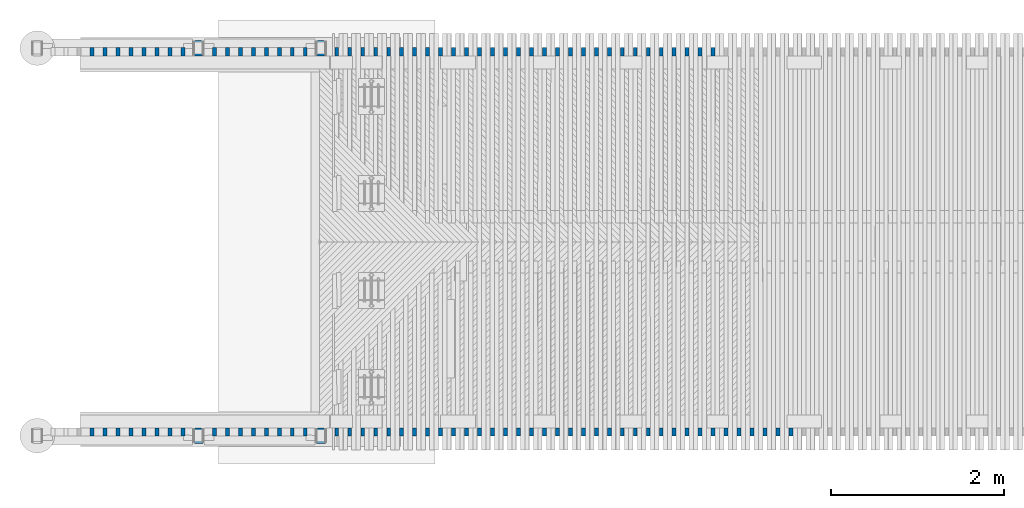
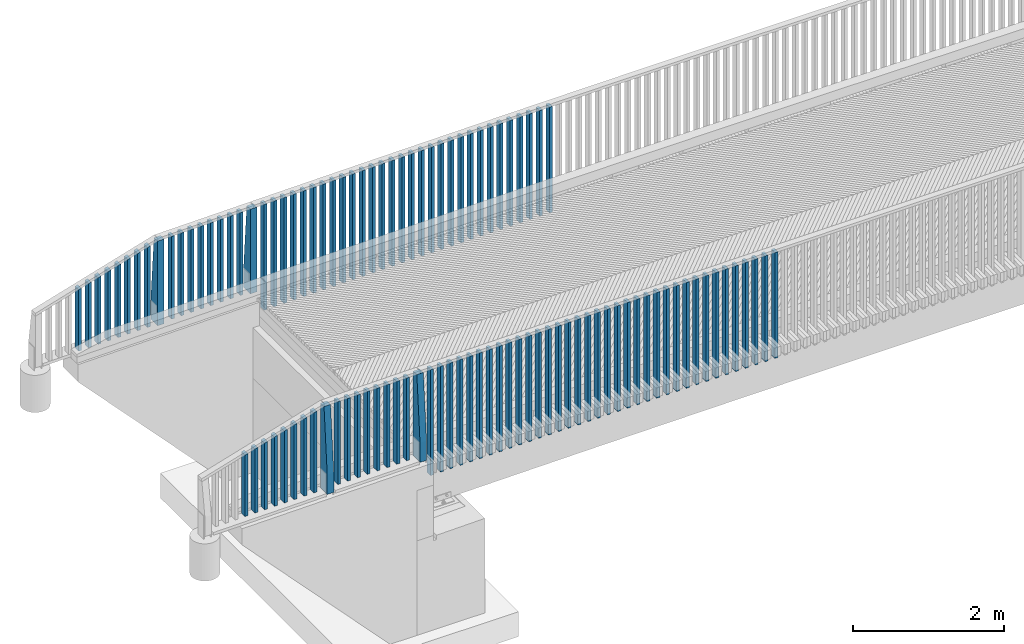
# One storey, part 6 of 47: 102 columns.
"""IFC2X3 building model written with IfcOpenShell, lengths in millimetres."""

import ifcopenshell
import ifcopenshell.guid

model = None  # the IFC model being written
_history = None  # IfcOwnerHistory: only IFC2X3 demands one
_inside = {}  # id of a spatial element -> (the spatial element, [elements in it])
_under = {}  # id of a project, library or spatial element -> (it, [spatial elements below it])
_declared = {}  # id of a project -> (the project, [libraries it declares])
_typed = {}  # id of a type object -> (the type object, [elements of that type])
_made_of = {}  # id of a material, layer set ... -> (it, [elements and type objects made of it])


def new_model(schema):
    """Start an empty IFC model of exactly this schema.

    Asked for "IFC4X3", IfcOpenShell would pick the latest addendum, in which some entities
    have other attributes; the version numbers below select the first issue.
    IFC2X3 requires an IfcOwnerHistory on every rooted entity: one is made here for all.
    """
    global model, _history
    if schema == "IFC4X3":
        model = ifcopenshell.file(schema_version=(4, 3, 0, 0))
    else:
        model = ifcopenshell.file(schema=schema)
    _inside.clear()
    _under.clear()
    _declared.clear()
    _typed.clear()
    _made_of.clear()
    _history = None
    if model.schema == "IFC2X3":
        org = make("IfcOrganization", Name="unknown")
        user = make(
            "IfcPersonAndOrganization",
            ThePerson=make("IfcPerson", FamilyName="unknown"),
            TheOrganization=org,
        )
        app = make(
            "IfcApplication",
            ApplicationDeveloper=org,
            Version="unknown",
            ApplicationFullName="unknown",
            ApplicationIdentifier="unknown",
        )
        _history = make(
            "IfcOwnerHistory",
            OwningUser=user,
            OwningApplication=app,
            ChangeAction="ADDED",
            CreationDate=0,
        )
    return model


def make(cls, **values):
    """One entity of the class cls with the attributes given. An attribute that is None is left unset."""
    return model.create_entity(
        cls, **{name: value for name, value in values.items() if value is not None}
    )


def rooted(cls, **values):
    """An entity with a GlobalId (a new one), such as an element, a storey or a relation."""
    return make(cls, GlobalId=ifcopenshell.guid.new(), OwnerHistory=_history, **values)


def si_unit(unit_type, name, prefix=None):
    """IfcSIUnit, for example si_unit("LENGTHUNIT", "METRE", prefix="MILLI")."""
    return make("IfcSIUnit", UnitType=unit_type, Prefix=prefix, Name=name)


def assignment(units):
    """IfcUnitAssignment: the units of a project."""
    return None if units is None else make("IfcUnitAssignment", Units=units)


def point(xyz):
    """IfcCartesianPoint."""
    return None if xyz is None else make("IfcCartesianPoint", Coordinates=xyz)


def direction(xyz):
    """IfcDirection."""
    return None if xyz is None else make("IfcDirection", DirectionRatios=xyz)


def frame(location, z_axis=None, x_axis=None):
    """IfcAxis2Placement3D, a coordinate frame: its origin and axes. An axis left out is left unset."""
    return make(
        "IfcAxis2Placement3D",
        Location=point(location),
        Axis=direction(z_axis),
        RefDirection=direction(x_axis),
    )


def origin_with_axes():
    """The frame at (0, 0, 0) with the z axis (0, 0, 1) and the x axis (1, 0, 0) written out."""
    return frame((0.0, 0.0, 0.0), z_axis=(0.0, 0.0, 1.0), x_axis=(1.0, 0.0, 0.0))


def place(relative_to, where):
    """IfcLocalPlacement: puts the frame where relative to a parent placement (None: the world)."""
    return make(
        "IfcLocalPlacement", PlacementRelTo=relative_to, RelativePlacement=where
    )


def context(
    kind, dimensions, precision=None, world=None, true_north=None, identifier=None
):
    """IfcGeometricRepresentationContext, for example the 3D "Model" context."""
    return make(
        "IfcGeometricRepresentationContext",
        ContextIdentifier=identifier,
        ContextType=kind,
        CoordinateSpaceDimension=dimensions,
        Precision=precision,
        WorldCoordinateSystem=world,
        TrueNorth=true_north,
    )


def subcontext(parent, identifier, kind, view, scale=None):
    """IfcGeometricRepresentationSubContext, for example "Body" below "Model"."""
    return make(
        "IfcGeometricRepresentationSubContext",
        ContextIdentifier=identifier,
        ContextType=kind,
        ParentContext=parent,
        TargetScale=scale,
        TargetView=view,
    )


def project(units=None, contexts=None):
    """IfcProject with its units and contexts."""
    return rooted(
        "IfcProject",
        Name="project",
        RepresentationContexts=contexts,
        UnitsInContext=assignment(units),
    )


def spatial(cls, under=None, at=None, **own):
    """A site, building, storey or space (cls), placed at a placement, below another one or the project."""
    s = rooted(cls, ObjectPlacement=at, **own)
    if under is not None:
        _under.setdefault(under.id(), (under, []))[1].append(s)
    return s


def faces_of(points, faces, orient=None, outer=None):
    """IfcFace entities. A face is a list of loops; a loop is a list of indices into points, from 0.

    orient and outer hold one flag for each loop. By default every Orientation is true, the
    first loop of a face is its IfcFaceOuterBound and the others are IfcFaceBound.
    """
    made = []
    for i, loops in enumerate(faces):
        bounds = []
        for j, loop in enumerate(loops):
            is_outer = j == 0 if outer is None else outer[i][j]
            bounds.append(
                make(
                    "IfcFaceOuterBound" if is_outer else "IfcFaceBound",
                    Bound=make("IfcPolyLoop", Polygon=[points[k] for k in loop]),
                    Orientation=True if orient is None else orient[i][j],
                )
            )
        made.append(make("IfcFace", Bounds=bounds))
    return made


def faceted_brep(points, faces, orient=None, outer=None, voids=None):
    """IfcFacetedBrep: a solid bounded by flat faces; with voids (closed shells), ...WithVoids."""
    shared = [point(p) for p in points]
    hull = make("IfcClosedShell", CfsFaces=faces_of(shared, faces, orient, outer))
    if voids is None:
        return make("IfcFacetedBrep", Outer=hull)
    return make(
        "IfcFacetedBrepWithVoids",
        Outer=hull,
        Voids=[
            make(cls, CfsFaces=faces_of(shared, fs, o, b)) for cls, fs, o, b in voids
        ],
    )


def shape(context_of_items, identifier, shape_type, items):
    """IfcShapeRepresentation: the items that make up one representation, for example the "Body"."""
    return make(
        "IfcShapeRepresentation",
        ContextOfItems=context_of_items,
        RepresentationIdentifier=identifier,
        RepresentationType=shape_type,
        Items=items,
    )


def material(Name=None, Category=None):
    """IfcMaterial."""
    return make("IfcMaterial", Name=Name, Category=Category)


def made_of(thing, what):
    """Note that an element or type object is made of a material, layer set ...; save() writes the relation."""
    if what is not None:
        _made_of.setdefault(what.id(), (what, []))[1].append(thing)
    return thing


def type_object(cls, material=None, **own):
    """A type object (cls), such as IfcWallType, which elements share."""
    return made_of(rooted(cls, **own), material)


def element(
    cls,
    number,
    at=None,
    inside=None,
    cuts=None,
    type_object=None,
    material=None,
    context=None,
    identifier="Body",
    shape_type=None,
    held_by="IfcProductDefinitionShape",
    body=None,
    shapes=None,
    **own,
):
    """One element of the class cls, such as IfcWall. Its Tag is "e" and its number.

    at: its placement. inside: the storey or other place that contains it. cuts: it is an
    opening in that element (IfcRelVoidsElement). A single representation is given by context,
    identifier, shape_type and body (its items); several are given by shapes. held_by: the class
    of the entity that holds the representations. save() writes the other relations.
    """
    e = rooted(cls, Tag="e%d" % number, ObjectPlacement=at, **own)
    if body is not None:
        shapes = [shape(context, identifier, shape_type, body)]
    if shapes is not None:
        e.Representation = make(held_by, Representations=shapes)
    if inside is not None:
        _inside.setdefault(inside.id(), (inside, []))[1].append(e)
    if cuts is not None:
        rooted(
            "IfcRelVoidsElement", RelatingBuildingElement=cuts, RelatedOpeningElement=e
        )
    if type_object is not None:
        _typed.setdefault(type_object.id(), (type_object, []))[1].append(e)
    return made_of(e, material)


def aggregate(whole, parts):
    """IfcRelAggregates: a whole, such as a stair, and the parts it consists of."""
    return rooted("IfcRelAggregates", RelatingObject=whole, RelatedObjects=parts)


def save(model, path):
    """Write the relations noted so far, then the file.

    IfcRelAggregates (storeys below a building ...), IfcRelContainedInSpatialStructure (elements
    in a storey), IfcRelDefinesByType, IfcRelAssociatesMaterial and IfcRelDeclares: one each for
    every whole, place, type object, material and project.
    """
    for whole, parts in _under.values():
        aggregate(whole, parts)
    for where, things in _inside.values():
        rooted(
            "IfcRelContainedInSpatialStructure",
            RelatedElements=things,
            RelatingStructure=where,
        )
    for kind, things in _typed.values():
        rooted("IfcRelDefinesByType", RelatedObjects=things, RelatingType=kind)
    for what, things in _made_of.values():
        rooted("IfcRelAssociatesMaterial", RelatedObjects=things, RelatingMaterial=what)
    for by, libraries in _declared.values():
        rooted("IfcRelDeclares", RelatingContext=by, RelatedDefinitions=libraries)
    model.write(path)


model = new_model("IFC2X3")

# Units and contexts
model_context = context("Model", 3, precision=1e-05, world=origin_with_axes())
body_context = subcontext(model_context, "Body", "Model", "MODEL_VIEW")
ifc_project = project(units=[si_unit("LENGTHUNIT", "METRE", prefix="MILLI"), si_unit("AREAUNIT", "SQUARE_METRE"), si_unit("VOLUMEUNIT", "CUBIC_METRE"), si_unit("MASSUNIT", "GRAM", prefix="KILO"), si_unit("TIMEUNIT", "SECOND"), si_unit("PLANEANGLEUNIT", "RADIAN"), si_unit("SOLIDANGLEUNIT", "STERADIAN"), si_unit("THERMODYNAMICTEMPERATUREUNIT", "DEGREE_CELSIUS"), si_unit("LUMINOUSINTENSITYUNIT", "LUMEN")], contexts=[model_context])

# Site, building, storey
site_placement = place(None, origin_with_axes())
site = spatial("IfcSite", under=ifc_project, at=site_placement, Name="Undefined", CompositionType="ELEMENT")
building_placement = place(site_placement, origin_with_axes())
building = spatial("IfcBuilding", under=site, at=building_placement, Name="Undefined", CompositionType="ELEMENT")
storey_placement = place(building_placement, origin_with_axes())
storey = spatial("IfcBuildingStorey", under=building, at=storey_placement, Name="Undefined", CompositionType="ELEMENT", Elevation=0.0)

# Columns
ifc_material = material(Name="TIMBER/Timber_Undefined")
column_type_1 = type_object("IfcColumnType", Name="180*100", PredefinedType="NOTDEFINED")
column_1_placement = place(storey_placement, frame((-1996.99999924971, 64604.9879081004, 3729.56999999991), z_axis=(0.0, -1.0, 0.0), x_axis=(0.0, 0.0, 1.0)))
element("IfcColumn", 1, at=column_1_placement, inside=storey, type_object=column_type_1, material=ifc_material, Name="KAIDEPYLVÄS", ObjectType="180*100", context=body_context, shape_type="Brep", body=[
    faceted_brep([(-606.989999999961, 50.0, 90.0), (-606.989999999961, -50.0, 90.0), (758.516492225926, -50.0, 90.0), (756.859403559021, 50.0, 90.0), (-606.989999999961, -50.0, -90.0), (-606.989999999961, 50.0, -90.0), (-287.990000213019, -50.0, -90.0), (758.516492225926, -50.0, -5.54845689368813), (756.859403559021, 50.0, -5.6821815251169), (-287.990000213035, 50.0, -90.0)], [[[0, 1, 2, 3]], [[4, 1, 0, 5]], [[2, 1, 4, 6, 7]], [[3, 2, 7, 8]], [[5, 0, 3, 8, 9]], [[4, 5, 9, 6]], [[6, 9, 8, 7]]]),
])
column_2_placement = place(storey_placement, frame((-1996.99999924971, 60125.0120919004, 3729.56999999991), z_axis=(0.0, 1.0, 0.0), x_axis=(0.0, 0.0, 1.0)))
element("IfcColumn", 2, at=column_2_placement, inside=storey, type_object=column_type_1, material=ifc_material, Name="KAIDEPYLVÄS", ObjectType="180*100", context=body_context, shape_type="Brep", body=[
    faceted_brep([(-606.989999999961, -50.0, -90.0), (-606.989999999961, -50.0, 90.0), (-606.989999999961, 50.0, 90.0), (-606.989999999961, 50.0, -90.0), (756.859403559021, -50.0, 90.0), (758.516492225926, 50.0, 90.0), (758.516492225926, 50.0, -5.54845689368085), (-287.990000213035, 50.0, -90.0), (-287.990000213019, -50.0, -90.0), (756.859403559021, -50.0, -5.68218152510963)], [[[0, 1, 2, 3]], [[2, 1, 4, 5]], [[3, 2, 5, 6, 7]], [[0, 3, 7, 8]], [[4, 1, 0, 8, 9]], [[5, 4, 9, 6]], [[6, 9, 8, 7]]]),
])
column_3_placement = place(storey_placement, frame((-581.999999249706, 64604.9879081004, 3749.43999999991), z_axis=(0.0, -1.0, 0.0), x_axis=(0.0, 0.0, 1.0)))
element("IfcColumn", 3, at=column_3_placement, inside=storey, type_object=column_type_1, material=ifc_material, Name="KAIDEPYLVÄS", ObjectType="180*100", context=body_context, shape_type="Brep", body=[
    faceted_brep([(-606.989999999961, 50.0, 90.0), (-606.989999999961, -50.0, 90.0), (758.516492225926, -50.0, 90.0), (756.859403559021, 50.0, 90.0), (-606.989999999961, -50.0, -90.0), (-606.989999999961, 50.0, -90.0), (-287.990000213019, -50.0, -90.0), (758.516492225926, -50.0, -5.54845689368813), (756.859403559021, 50.0, -5.6821815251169), (-287.990000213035, 50.0, -90.0)], [[[0, 1, 2, 3]], [[4, 1, 0, 5]], [[2, 1, 4, 6, 7]], [[3, 2, 7, 8]], [[5, 0, 3, 8, 9]], [[4, 5, 9, 6]], [[6, 9, 8, 7]]]),
])
column_4_placement = place(storey_placement, frame((-581.999999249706, 60125.0120919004, 3749.43999999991), z_axis=(0.0, 1.0, 0.0), x_axis=(0.0, 0.0, 1.0)))
element("IfcColumn", 4, at=column_4_placement, inside=storey, type_object=column_type_1, material=ifc_material, Name="KAIDEPYLVÄS", ObjectType="180*100", context=body_context, shape_type="Brep", body=[
    faceted_brep([(-606.989999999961, -50.0, -90.0), (-606.989999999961, -50.0, 90.0), (-606.989999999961, 50.0, 90.0), (-606.989999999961, 50.0, -90.0), (756.859403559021, -50.0, 90.0), (758.516492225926, 50.0, 90.0), (758.516492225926, 50.0, -5.54845689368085), (-287.990000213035, 50.0, -90.0), (-287.990000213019, -50.0, -90.0), (756.859403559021, -50.0, -5.68218152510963)], [[[0, 1, 2, 3]], [[2, 1, 4, 5]], [[3, 2, 5, 6, 7]], [[0, 3, 7, 8]], [[4, 1, 0, 8, 9]], [[5, 4, 9, 6]], [[6, 9, 8, 7]]]),
])
column_type_2 = type_object("IfcColumnType", Name="95*45", PredefinedType="NOTDEFINED")
for number, where, z_axis, x_axis in (
    (5, (-399.999932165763, 64562.4879081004, 2804.85408106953), (0.0, -1.0, 0.0), (0.0, 0.0, 1.0)),
    (6, (-249.999932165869, 64562.4879081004, 2806.92364687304), (0.0, -1.0, 0.0), (0.0, 0.0, 1.0)),
    (7, (-99.999932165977, 64562.4879081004, 2808.95591629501), (0.0, -1.0, 0.0), (0.0, 0.0, 1.0)),
    (8, (50.0000678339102, 64562.4879081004, 2810.95088971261), (0.0, -1.0, 0.0), (0.0, 0.0, 1.0)),
    (9, (200.000067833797, 64562.4879081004, 2812.90856749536), (0.0, -1.0, 0.0), (0.0, 0.0, 1.0)),
    (10, (350.000067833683, 64562.4879081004, 2814.82895000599), (0.0, -1.0, 0.0), (0.0, 0.0, 1.0)),
    (11, (500.000067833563, 64562.4879081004, 2816.71203760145), (0.0, -1.0, 0.0), (0.0, 0.0, 1.0)),
    (12, (650.000067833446, 64562.4879081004, 2818.55783063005), (0.0, -1.0, 0.0), (0.0, 0.0, 1.0)),
    (13, (800.000067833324, 64562.4879081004, 2820.36632943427), (0.0, -1.0, 0.0), (0.0, 0.0, 1.0)),
    (14, (950.000067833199, 64562.4879081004, 2822.13753434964), (0.0, -1.0, 0.0), (0.0, 0.0, 1.0)),
    (15, (1100.00006783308, 64562.4879081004, 2823.87144570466), (0.0, -1.0, 0.0), (0.0, 0.0, 1.0)),
    (16, (1250.00006783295, 64562.4879081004, 2825.56806382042), (0.0, -1.0, 0.0), (0.0, 0.0, 1.0)),
    (17, (1400.00006783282, 64562.4879081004, 2827.22738901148), (0.0, -1.0, 0.0), (0.0, 0.0, 1.0)),
    (18, (1550.00006783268, 64562.4879081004, 2828.84942158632), (0.0, -1.0, 0.0), (0.0, 0.0, 1.0)),
    (19, (1700.00006783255, 64562.4879081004, 2830.43416184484), (0.0, -1.0, 0.0), (0.0, 0.0, 1.0)),
    (20, (1850.00006783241, 64562.4879081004, 2831.9816100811), (0.0, -1.0, 0.0), (0.0, 0.0, 1.0)),
    (21, (2000.00006783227, 64562.4879081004, 2833.49176658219), (0.0, -1.0, 0.0), (0.0, 0.0, 1.0)),
    (22, (2150.00006783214, 64562.4879081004, 2834.96463162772), (0.0, -1.0, 0.0), (0.0, 0.0, 1.0)),
    (23, (2300.00006783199, 64562.4879081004, 2836.40020549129), (0.0, -1.0, 0.0), (0.0, 0.0, 1.0)),
    (24, (2450.00006783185, 64562.4879081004, 2837.79848843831), (0.0, -1.0, 0.0), (0.0, 0.0, 1.0)),
    (25, (2600.0000678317, 64562.4879081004, 2839.15948072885), (0.0, -1.0, 0.0), (0.0, 0.0, 1.0)),
    (26, (2750.00006783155, 64562.4879081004, 2840.48318261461), (0.0, -1.0, 0.0), (0.0, 0.0, 1.0)),
    (27, (2900.0000678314, 64562.4879081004, 2841.76959434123), (0.0, -1.0, 0.0), (0.0, 0.0, 1.0)),
    (28, (3050.00006783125, 64562.4879081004, 2843.01871614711), (0.0, -1.0, 0.0), (0.0, 0.0, 1.0)),
    (29, (3200.00006783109, 64562.4879081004, 2844.23054826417), (0.0, -1.0, 0.0), (0.0, 0.0, 1.0)),
    (30, (3350.00006783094, 64562.4879081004, 2845.40509091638), (0.0, -1.0, 0.0), (0.0, 0.0, 1.0)),
    (31, (3500.00006783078, 64562.4879081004, 2846.54234432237), (0.0, -1.0, 0.0), (0.0, 0.0, 1.0)),
    (32, (3650.00006783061, 64562.4879081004, 2847.64230869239), (0.0, -1.0, 0.0), (0.0, 0.0, 1.0)),
    (33, (3800.00006783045, 64562.4879081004, 2848.7049842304), (0.0, -1.0, 0.0), (0.0, 0.0, 1.0)),
    (34, (3950.00006783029, 64562.4879081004, 2849.73037113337), (0.0, -1.0, 0.0), (0.0, 0.0, 1.0)),
):
    element("IfcColumn", number, at=place(storey_placement, frame(where, z_axis=z_axis, x_axis=x_axis)), inside=storey, type_object=column_type_2, material=ifc_material, Name="KAIDEPYLVÄS", ObjectType="95*45", context=body_context, shape_type="Brep", body=[
        faceted_brep([(4.00216176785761e-05, 22.5000000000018, -47.5), (4.00216176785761e-05, 22.5000000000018, 47.5), (1705.0, 22.5, 47.5), (1705.0, 22.5, -47.5), (4.00216176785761e-05, -22.5000000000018, 47.5), (1705.0, -22.5, 47.5), (4.00216176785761e-05, -22.5000000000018, -47.5), (1705.0, -22.5, -47.5)], [[[0, 1, 2, 3]], [[1, 4, 5, 2]], [[4, 6, 7, 5]], [[6, 0, 3, 7]], [[5, 7, 3, 2]], [[6, 4, 1, 0]]]),
    ])
column_5_placement = place(storey_placement, frame((-2179.52918364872, 64562.4979081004, 3121.94), z_axis=(0.0, 1.0, 0.0), x_axis=(0.0, 0.0, 1.0)))
element("IfcColumn", 35, at=column_5_placement, inside=storey, type_object=column_type_2, material=ifc_material, Name="BEAM", ObjectType="95*45", context=body_context, shape_type="Brep", body=[
    faceted_brep([(28.8093027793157, 22.5, -47.5), (28.8093027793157, 22.5, 47.5), (1329.96289203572, 22.5, 47.5), (1329.96289203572, 22.5, -47.5), (28.1773870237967, -22.5, 47.5), (1316.53527806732, -22.5, 47.5), (28.1773870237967, -22.5, -47.5), (1316.53527806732, -22.5, -47.5)], [[[0, 1, 2, 3]], [[1, 4, 5, 2]], [[4, 6, 7, 5]], [[6, 0, 3, 7]], [[5, 7, 3, 2]], [[6, 4, 1, 0]]]),
])
column_6_placement = place(storey_placement, frame((-2329.52918364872, 64562.4979081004, 3121.94), z_axis=(0.0, 1.0, 0.0), x_axis=(0.0, 0.0, 1.0)))
element("IfcColumn", 36, at=column_6_placement, inside=storey, type_object=column_type_2, material=ifc_material, Name="BEAM", ObjectType="95*45", context=body_context, shape_type="Brep", body=[
    faceted_brep([(26.7029169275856, 22.5, -47.5), (26.7029169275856, 22.5, 47.5), (1285.20417880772, 22.5, 47.5), (1285.20417880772, 22.5, -47.5), (26.0710011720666, -22.5, 47.5), (1271.77656483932, -22.5, 47.5), (26.0710011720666, -22.5, -47.5), (1271.77656483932, -22.5, -47.5)], [[[0, 1, 2, 3]], [[1, 4, 5, 2]], [[4, 6, 7, 5]], [[6, 0, 3, 7]], [[5, 7, 3, 2]], [[6, 4, 1, 0]]]),
])
column_7_placement = place(storey_placement, frame((-2479.52918364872, 64562.4979081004, 3121.94), z_axis=(0.0, 1.0, 0.0), x_axis=(0.0, 0.0, 1.0)))
element("IfcColumn", 37, at=column_7_placement, inside=storey, type_object=column_type_2, material=ifc_material, Name="BEAM", ObjectType="95*45", context=body_context, shape_type="Brep", body=[
    faceted_brep([(24.5965310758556, 22.5, -47.5), (24.5965310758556, 22.5, 47.5), (1240.44546557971, 22.5, 47.5), (1240.44546557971, 22.5, -47.5), (23.9646153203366, -22.5, 47.5), (1227.01785161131, -22.5, 47.5), (23.9646153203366, -22.5, -47.5), (1227.01785161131, -22.5, -47.5)], [[[0, 1, 2, 3]], [[1, 4, 5, 2]], [[4, 6, 7, 5]], [[6, 0, 3, 7]], [[5, 7, 3, 2]], [[6, 4, 1, 0]]]),
])
column_8_placement = place(storey_placement, frame((-2629.52918364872, 64562.4979081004, 3121.94), z_axis=(0.0, 1.0, 0.0), x_axis=(0.0, 0.0, 1.0)))
element("IfcColumn", 38, at=column_8_placement, inside=storey, type_object=column_type_2, material=ifc_material, Name="BEAM", ObjectType="95*45", context=body_context, shape_type="Brep", body=[
    faceted_brep([(22.4901452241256, 22.5, -47.5), (22.4901452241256, 22.5, 47.5), (1195.68675235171, 22.5, 47.5), (1195.68675235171, 22.5, -47.5), (21.8582294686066, -22.5, 47.5), (1182.2591383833, -22.5, 47.5), (21.8582294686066, -22.5, -47.5), (1182.2591383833, -22.5, -47.5)], [[[0, 1, 2, 3]], [[1, 4, 5, 2]], [[4, 6, 7, 5]], [[6, 0, 3, 7]], [[5, 7, 3, 2]], [[6, 4, 1, 0]]]),
])
column_9_placement = place(storey_placement, frame((-2779.52918364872, 64562.4979081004, 3121.94), z_axis=(0.0, 1.0, 0.0), x_axis=(0.0, 0.0, 1.0)))
element("IfcColumn", 39, at=column_9_placement, inside=storey, type_object=column_type_2, material=ifc_material, Name="BEAM", ObjectType="95*45", context=body_context, shape_type="Brep", body=[
    faceted_brep([(20.3837593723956, 22.5, -47.5), (20.3837593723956, 22.5, 47.5), (1150.9280391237, 22.5, 47.5), (1150.9280391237, 22.5, -47.5), (19.7518436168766, -22.5, 47.5), (1137.5004251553, -22.5, 47.5), (19.7518436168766, -22.5, -47.5), (1137.5004251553, -22.5, -47.5)], [[[0, 1, 2, 3]], [[1, 4, 5, 2]], [[4, 6, 7, 5]], [[6, 0, 3, 7]], [[5, 7, 3, 2]], [[6, 4, 1, 0]]]),
])
column_10_placement = place(storey_placement, frame((-2929.52918364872, 64562.4979081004, 3121.94), z_axis=(0.0, 1.0, 0.0), x_axis=(0.0, 0.0, 1.0)))
element("IfcColumn", 40, at=column_10_placement, inside=storey, type_object=column_type_2, material=ifc_material, Name="BEAM", ObjectType="95*45", context=body_context, shape_type="Brep", body=[
    faceted_brep([(18.2773735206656, 22.5, -47.5), (18.2773735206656, 22.5, 47.5), (1106.16932589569, 22.5, 47.5), (1106.16932589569, 22.5, -47.5), (17.6454577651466, -22.5, 47.5), (1092.74171192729, -22.5, 47.5), (17.6454577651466, -22.5, -47.5), (1092.74171192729, -22.5, -47.5)], [[[0, 1, 2, 3]], [[1, 4, 5, 2]], [[4, 6, 7, 5]], [[6, 0, 3, 7]], [[5, 7, 3, 2]], [[6, 4, 1, 0]]]),
])
column_11_placement = place(storey_placement, frame((-3079.52918364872, 64562.4979081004, 3121.94), z_axis=(0.0, 1.0, 0.0), x_axis=(0.0, 0.0, 1.0)))
element("IfcColumn", 41, at=column_11_placement, inside=storey, type_object=column_type_2, material=ifc_material, Name="BEAM", ObjectType="95*45", context=body_context, shape_type="Brep", body=[
    faceted_brep([(16.1709876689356, 22.5, -47.5), (16.1709876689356, 22.5, 47.5), (1061.41061266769, 22.5, 47.5), (1061.41061266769, 22.5, -47.5), (15.5390719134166, -22.5, 47.5), (1047.98299869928, -22.5, 47.5), (15.5390719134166, -22.5, -47.5), (1047.98299869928, -22.5, -47.5)], [[[0, 1, 2, 3]], [[1, 4, 5, 2]], [[4, 6, 7, 5]], [[6, 0, 3, 7]], [[5, 7, 3, 2]], [[6, 4, 1, 0]]]),
])
column_12_placement = place(storey_placement, frame((-3229.52918364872, 64562.4979081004, 3121.94), z_axis=(0.0, 1.0, 0.0), x_axis=(0.0, 0.0, 1.0)))
element("IfcColumn", 42, at=column_12_placement, inside=storey, type_object=column_type_2, material=ifc_material, Name="BEAM", ObjectType="95*45", context=body_context, shape_type="Brep", body=[
    faceted_brep([(14.0646018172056, 22.5, -47.5), (14.0646018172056, 22.5, 47.5), (1016.65189943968, 22.5, 47.5), (1016.65189943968, 22.5, -47.5), (13.4326860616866, -22.5, 47.5), (1003.22428547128, -22.5, 47.5), (13.4326860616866, -22.5, -47.5), (1003.22428547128, -22.5, -47.5)], [[[0, 1, 2, 3]], [[1, 4, 5, 2]], [[4, 6, 7, 5]], [[6, 0, 3, 7]], [[5, 7, 3, 2]], [[6, 4, 1, 0]]]),
])
column_13_placement = place(storey_placement, frame((-1814.49999924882, 64562.4979081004, 3119.90000000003), z_axis=(0.0, 1.0, 0.0), x_axis=(0.0, 0.0, 1.0)))
element("IfcColumn", 43, at=column_13_placement, inside=storey, type_object=column_type_2, material=ifc_material, Name="BEAM", ObjectType="95*45", context=body_context, shape_type="Brep", body=[
    faceted_brep([(35.9832863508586, 22.5, -47.5), (35.9832863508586, 22.5, 47.5), (1370.35731729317, 22.5, 47.5), (1370.35731729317, 22.5, -47.5), (35.3513416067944, -22.5, 47.5), (1369.72610027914, -22.5, 47.5), (35.3513416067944, -22.5, -47.5), (1369.72610027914, -22.5, -47.5)], [[[0, 1, 2, 3]], [[1, 4, 5, 2]], [[4, 6, 7, 5]], [[6, 0, 3, 7]], [[5, 7, 3, 2]], [[6, 4, 1, 0]]]),
])
column_14_placement = place(storey_placement, frame((-1664.49999924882, 64562.4979081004, 3119.90000000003), z_axis=(0.0, 1.0, 0.0), x_axis=(0.0, 0.0, 1.0)))
element("IfcColumn", 44, at=column_14_placement, inside=storey, type_object=column_type_2, material=ifc_material, Name="BEAM", ObjectType="95*45", context=body_context, shape_type="Brep", body=[
    faceted_brep([(38.0897688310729, 22.5, -47.5), (38.0897688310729, 22.5, 47.5), (1372.4613740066, 22.5, 47.5), (1372.4613740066, 22.5, -47.5), (37.4578240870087, -22.5, 47.5), (1371.83015699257, -22.5, 47.5), (37.4578240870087, -22.5, -47.5), (1371.83015699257, -22.5, -47.5)], [[[0, 1, 2, 3]], [[1, 4, 5, 2]], [[4, 6, 7, 5]], [[6, 0, 3, 7]], [[5, 7, 3, 2]], [[6, 4, 1, 0]]]),
])
column_15_placement = place(storey_placement, frame((-1514.49999924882, 64562.4979081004, 3119.90000000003), z_axis=(0.0, 1.0, 0.0), x_axis=(0.0, 0.0, 1.0)))
element("IfcColumn", 45, at=column_15_placement, inside=storey, type_object=column_type_2, material=ifc_material, Name="BEAM", ObjectType="95*45", context=body_context, shape_type="Brep", body=[
    faceted_brep([(40.1962513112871, 22.5, -47.5), (40.1962513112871, 22.5, 47.5), (1374.56543072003, 22.5, 47.5), (1374.56543072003, 22.5, -47.5), (39.564306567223, -22.5, 47.5), (1373.934213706, -22.5, 47.5), (39.564306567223, -22.5, -47.5), (1373.934213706, -22.5, -47.5)], [[[0, 1, 2, 3]], [[1, 4, 5, 2]], [[4, 6, 7, 5]], [[6, 0, 3, 7]], [[5, 7, 3, 2]], [[6, 4, 1, 0]]]),
])
column_16_placement = place(storey_placement, frame((-1364.49999924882, 64562.4979081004, 3119.90000000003), z_axis=(0.0, 1.0, 0.0), x_axis=(0.0, 0.0, 1.0)))
element("IfcColumn", 46, at=column_16_placement, inside=storey, type_object=column_type_2, material=ifc_material, Name="BEAM", ObjectType="95*45", context=body_context, shape_type="Brep", body=[
    faceted_brep([(42.3027337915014, 22.5, -47.5), (42.3027337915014, 22.5, 47.5), (1376.66948743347, 22.5, 47.5), (1376.66948743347, 22.5, -47.5), (41.6707890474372, -22.5, 47.5), (1376.03827041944, -22.5, 47.5), (41.6707890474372, -22.5, -47.5), (1376.03827041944, -22.5, -47.5)], [[[0, 1, 2, 3]], [[1, 4, 5, 2]], [[4, 6, 7, 5]], [[6, 0, 3, 7]], [[5, 7, 3, 2]], [[6, 4, 1, 0]]]),
])
column_17_placement = place(storey_placement, frame((-1214.49999924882, 64562.4979081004, 3119.90000000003), z_axis=(0.0, 1.0, 0.0), x_axis=(0.0, 0.0, 1.0)))
element("IfcColumn", 47, at=column_17_placement, inside=storey, type_object=column_type_2, material=ifc_material, Name="BEAM", ObjectType="95*45", context=body_context, shape_type="Brep", body=[
    faceted_brep([(44.4092162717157, 22.5, -47.5), (44.4092162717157, 22.5, 47.5), (1378.7735441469, 22.5, 47.5), (1378.7735441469, 22.5, -47.5), (43.7772715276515, -22.5, 47.5), (1378.14232713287, -22.5, 47.5), (43.7772715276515, -22.5, -47.5), (1378.14232713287, -22.5, -47.5)], [[[0, 1, 2, 3]], [[1, 4, 5, 2]], [[4, 6, 7, 5]], [[6, 0, 3, 7]], [[5, 7, 3, 2]], [[6, 4, 1, 0]]]),
])
column_18_placement = place(storey_placement, frame((-1064.49999924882, 64562.4979081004, 3119.90000000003), z_axis=(0.0, 1.0, 0.0), x_axis=(0.0, 0.0, 1.0)))
element("IfcColumn", 48, at=column_18_placement, inside=storey, type_object=column_type_2, material=ifc_material, Name="BEAM", ObjectType="95*45", context=body_context, shape_type="Brep", body=[
    faceted_brep([(46.5156987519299, 22.5, -47.5), (46.5156987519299, 22.5, 47.5), (1380.87760086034, 22.5, 47.5), (1380.87760086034, 22.5, -47.5), (45.8837540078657, -22.5, 47.5), (1380.24638384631, -22.5, 47.5), (45.8837540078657, -22.5, -47.5), (1380.24638384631, -22.5, -47.5)], [[[0, 1, 2, 3]], [[1, 4, 5, 2]], [[4, 6, 7, 5]], [[6, 0, 3, 7]], [[5, 7, 3, 2]], [[6, 4, 1, 0]]]),
])
column_19_placement = place(storey_placement, frame((-914.499999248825, 64562.4979081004, 3119.90000000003), z_axis=(0.0, 1.0, 0.0), x_axis=(0.0, 0.0, 1.0)))
element("IfcColumn", 49, at=column_19_placement, inside=storey, type_object=column_type_2, material=ifc_material, Name="BEAM", ObjectType="95*45", context=body_context, shape_type="Brep", body=[
    faceted_brep([(48.6221812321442, 22.5, -47.5), (48.6221812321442, 22.5, 47.5), (1382.98165757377, 22.5, 47.5), (1382.98165757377, 22.5, -47.5), (47.9902364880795, -22.5, 47.5), (1382.35044055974, -22.5, 47.5), (47.9902364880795, -22.5, -47.5), (1382.35044055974, -22.5, -47.5)], [[[0, 1, 2, 3]], [[1, 4, 5, 2]], [[4, 6, 7, 5]], [[6, 0, 3, 7]], [[5, 7, 3, 2]], [[6, 4, 1, 0]]]),
])
column_20_placement = place(storey_placement, frame((-764.499999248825, 64562.4979081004, 3119.90000000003), z_axis=(0.0, 1.0, 0.0), x_axis=(0.0, 0.0, 1.0)))
element("IfcColumn", 50, at=column_20_placement, inside=storey, type_object=column_type_2, material=ifc_material, Name="BEAM", ObjectType="95*45", context=body_context, shape_type="Brep", body=[
    faceted_brep([(50.728663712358, 22.5, -47.5), (50.728663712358, 22.5, 47.5), (1385.08571428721, 22.5, 47.5), (1385.08571428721, 22.5, -47.5), (50.0967189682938, -22.5, 47.5), (1384.45449727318, -22.5, 47.5), (50.0967189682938, -22.5, -47.5), (1384.45449727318, -22.5, -47.5)], [[[0, 1, 2, 3]], [[1, 4, 5, 2]], [[4, 6, 7, 5]], [[6, 0, 3, 7]], [[5, 7, 3, 2]], [[6, 4, 1, 0]]]),
])
column_21_placement = place(storey_placement, frame((-2179.52918364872, 60167.5020919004, 3121.94), z_axis=(0.0, -1.0, 0.0), x_axis=(0.0, 0.0, 1.0)))
element("IfcColumn", 51, at=column_21_placement, inside=storey, type_object=column_type_2, material=ifc_material, Name="BEAM", ObjectType="95*45", context=body_context, shape_type="Brep", body=[
    faceted_brep([(28.1773870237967, 22.5, -47.5), (28.1773870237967, 22.5, 47.5), (1316.53527806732, 22.5, 47.5), (1316.53527806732, 22.5, -47.5), (28.8093027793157, -22.5, 47.5), (1329.96289203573, -22.5, 47.5), (28.8093027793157, -22.5, -47.5), (1329.96289203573, -22.5, -47.5)], [[[0, 1, 2, 3]], [[1, 4, 5, 2]], [[4, 6, 7, 5]], [[6, 0, 3, 7]], [[5, 7, 3, 2]], [[6, 4, 1, 0]]]),
])
column_22_placement = place(storey_placement, frame((-2329.52918364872, 60167.5020919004, 3121.94), z_axis=(0.0, -1.0, 0.0), x_axis=(0.0, 0.0, 1.0)))
element("IfcColumn", 52, at=column_22_placement, inside=storey, type_object=column_type_2, material=ifc_material, Name="BEAM", ObjectType="95*45", context=body_context, shape_type="Brep", body=[
    faceted_brep([(26.0710011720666, 22.5, -47.5), (26.0710011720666, 22.5, 47.5), (1271.77656483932, 22.5, 47.5), (1271.77656483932, 22.5, -47.5), (26.7029169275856, -22.5, 47.5), (1285.20417880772, -22.5, 47.5), (26.7029169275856, -22.5, -47.5), (1285.20417880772, -22.5, -47.5)], [[[0, 1, 2, 3]], [[1, 4, 5, 2]], [[4, 6, 7, 5]], [[6, 0, 3, 7]], [[5, 7, 3, 2]], [[6, 4, 1, 0]]]),
])
column_23_placement = place(storey_placement, frame((-2479.52918364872, 60167.5020919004, 3121.94), z_axis=(0.0, -1.0, 0.0), x_axis=(0.0, 0.0, 1.0)))
element("IfcColumn", 53, at=column_23_placement, inside=storey, type_object=column_type_2, material=ifc_material, Name="BEAM", ObjectType="95*45", context=body_context, shape_type="Brep", body=[
    faceted_brep([(23.9646153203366, 22.5, -47.5), (23.9646153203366, 22.5, 47.5), (1227.01785161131, 22.5, 47.5), (1227.01785161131, 22.5, -47.5), (24.5965310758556, -22.5, 47.5), (1240.44546557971, -22.5, 47.5), (24.5965310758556, -22.5, -47.5), (1240.44546557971, -22.5, -47.5)], [[[0, 1, 2, 3]], [[1, 4, 5, 2]], [[4, 6, 7, 5]], [[6, 0, 3, 7]], [[5, 7, 3, 2]], [[6, 4, 1, 0]]]),
])
column_24_placement = place(storey_placement, frame((-2629.52918364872, 60167.5020919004, 3121.94), z_axis=(0.0, -1.0, 0.0), x_axis=(0.0, 0.0, 1.0)))
element("IfcColumn", 54, at=column_24_placement, inside=storey, type_object=column_type_2, material=ifc_material, Name="BEAM", ObjectType="95*45", context=body_context, shape_type="Brep", body=[
    faceted_brep([(21.8582294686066, 22.5, -47.5), (21.8582294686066, 22.5, 47.5), (1182.2591383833, 22.5, 47.5), (1182.2591383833, 22.5, -47.5), (22.4901452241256, -22.5, 47.5), (1195.68675235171, -22.5, 47.5), (22.4901452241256, -22.5, -47.5), (1195.68675235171, -22.5, -47.5)], [[[0, 1, 2, 3]], [[1, 4, 5, 2]], [[4, 6, 7, 5]], [[6, 0, 3, 7]], [[5, 7, 3, 2]], [[6, 4, 1, 0]]]),
])
column_25_placement = place(storey_placement, frame((-2779.52918364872, 60167.5020919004, 3121.94), z_axis=(0.0, -1.0, 0.0), x_axis=(0.0, 0.0, 1.0)))
element("IfcColumn", 55, at=column_25_placement, inside=storey, type_object=column_type_2, material=ifc_material, Name="BEAM", ObjectType="95*45", context=body_context, shape_type="Brep", body=[
    faceted_brep([(19.7518436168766, 22.5, -47.5), (19.7518436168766, 22.5, 47.5), (1137.5004251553, 22.5, 47.5), (1137.5004251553, 22.5, -47.5), (20.3837593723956, -22.5, 47.5), (1150.9280391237, -22.5, 47.5), (20.3837593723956, -22.5, -47.5), (1150.9280391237, -22.5, -47.5)], [[[0, 1, 2, 3]], [[1, 4, 5, 2]], [[4, 6, 7, 5]], [[6, 0, 3, 7]], [[5, 7, 3, 2]], [[6, 4, 1, 0]]]),
])
column_26_placement = place(storey_placement, frame((-2929.52918364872, 60167.5020919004, 3121.94), z_axis=(0.0, -1.0, 0.0), x_axis=(0.0, 0.0, 1.0)))
element("IfcColumn", 56, at=column_26_placement, inside=storey, type_object=column_type_2, material=ifc_material, Name="BEAM", ObjectType="95*45", context=body_context, shape_type="Brep", body=[
    faceted_brep([(17.6454577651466, 22.5, -47.5), (17.6454577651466, 22.5, 47.5), (1092.74171192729, 22.5, 47.5), (1092.74171192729, 22.5, -47.5), (18.2773735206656, -22.5, 47.5), (1106.16932589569, -22.5, 47.5), (18.2773735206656, -22.5, -47.5), (1106.16932589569, -22.5, -47.5)], [[[0, 1, 2, 3]], [[1, 4, 5, 2]], [[4, 6, 7, 5]], [[6, 0, 3, 7]], [[5, 7, 3, 2]], [[6, 4, 1, 0]]]),
])
column_27_placement = place(storey_placement, frame((-3079.52918364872, 60167.5020919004, 3121.94), z_axis=(0.0, -1.0, 0.0), x_axis=(0.0, 0.0, 1.0)))
element("IfcColumn", 57, at=column_27_placement, inside=storey, type_object=column_type_2, material=ifc_material, Name="BEAM", ObjectType="95*45", context=body_context, shape_type="Brep", body=[
    faceted_brep([(15.5390719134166, 22.5, -47.5), (15.5390719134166, 22.5, 47.5), (1047.98299869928, 22.5, 47.5), (1047.98299869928, 22.5, -47.5), (16.1709876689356, -22.5, 47.5), (1061.41061266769, -22.5, 47.5), (16.1709876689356, -22.5, -47.5), (1061.41061266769, -22.5, -47.5)], [[[0, 1, 2, 3]], [[1, 4, 5, 2]], [[4, 6, 7, 5]], [[6, 0, 3, 7]], [[5, 7, 3, 2]], [[6, 4, 1, 0]]]),
])
column_28_placement = place(storey_placement, frame((-3229.52918364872, 60167.5020919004, 3121.94), z_axis=(0.0, -1.0, 0.0), x_axis=(0.0, 0.0, 1.0)))
element("IfcColumn", 58, at=column_28_placement, inside=storey, type_object=column_type_2, material=ifc_material, Name="BEAM", ObjectType="95*45", context=body_context, shape_type="Brep", body=[
    faceted_brep([(13.4326860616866, 22.5, -47.5), (13.4326860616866, 22.5, 47.5), (1003.22428547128, 22.5, 47.5), (1003.22428547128, 22.5, -47.5), (14.0646018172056, -22.5, 47.5), (1016.65189943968, -22.5, 47.5), (14.0646018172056, -22.5, -47.5), (1016.65189943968, -22.5, -47.5)], [[[0, 1, 2, 3]], [[1, 4, 5, 2]], [[4, 6, 7, 5]], [[6, 0, 3, 7]], [[5, 7, 3, 2]], [[6, 4, 1, 0]]]),
])
column_29_placement = place(storey_placement, frame((-1814.49999924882, 60167.5020919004, 3119.90000000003), z_axis=(0.0, -1.0, 0.0), x_axis=(0.0, 0.0, 1.0)))
element("IfcColumn", 59, at=column_29_placement, inside=storey, type_object=column_type_2, material=ifc_material, Name="BEAM", ObjectType="95*45", context=body_context, shape_type="Brep", body=[
    faceted_brep([(35.3513416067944, 22.5, -47.5), (35.3513416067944, 22.5, 47.5), (1369.72610027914, 22.5, 47.5), (1369.72610027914, 22.5, -47.5), (35.9832863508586, -22.5, 47.5), (1370.35731729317, -22.5, 47.5), (35.9832863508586, -22.5, -47.5), (1370.35731729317, -22.5, -47.5)], [[[0, 1, 2, 3]], [[1, 4, 5, 2]], [[4, 6, 7, 5]], [[6, 0, 3, 7]], [[5, 7, 3, 2]], [[6, 4, 1, 0]]]),
])
column_30_placement = place(storey_placement, frame((-1664.49999924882, 60167.5020919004, 3119.90000000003), z_axis=(0.0, -1.0, 0.0), x_axis=(0.0, 0.0, 1.0)))
element("IfcColumn", 60, at=column_30_placement, inside=storey, type_object=column_type_2, material=ifc_material, Name="BEAM", ObjectType="95*45", context=body_context, shape_type="Brep", body=[
    faceted_brep([(37.4578240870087, 22.5, -47.5), (37.4578240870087, 22.5, 47.5), (1371.83015699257, 22.5, 47.5), (1371.83015699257, 22.5, -47.5), (38.0897688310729, -22.5, 47.5), (1372.4613740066, -22.5, 47.5), (38.0897688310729, -22.5, -47.5), (1372.4613740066, -22.5, -47.5)], [[[0, 1, 2, 3]], [[1, 4, 5, 2]], [[4, 6, 7, 5]], [[6, 0, 3, 7]], [[5, 7, 3, 2]], [[6, 4, 1, 0]]]),
])
column_31_placement = place(storey_placement, frame((-1514.49999924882, 60167.5020919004, 3119.90000000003), z_axis=(0.0, -1.0, 0.0), x_axis=(0.0, 0.0, 1.0)))
element("IfcColumn", 61, at=column_31_placement, inside=storey, type_object=column_type_2, material=ifc_material, Name="BEAM", ObjectType="95*45", context=body_context, shape_type="Brep", body=[
    faceted_brep([(39.564306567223, 22.5, -47.5), (39.564306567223, 22.5, 47.5), (1373.934213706, 22.5, 47.5), (1373.934213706, 22.5, -47.5), (40.1962513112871, -22.5, 47.5), (1374.56543072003, -22.5, 47.5), (40.1962513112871, -22.5, -47.5), (1374.56543072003, -22.5, -47.5)], [[[0, 1, 2, 3]], [[1, 4, 5, 2]], [[4, 6, 7, 5]], [[6, 0, 3, 7]], [[5, 7, 3, 2]], [[6, 4, 1, 0]]]),
])
column_32_placement = place(storey_placement, frame((-1364.49999924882, 60167.5020919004, 3119.90000000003), z_axis=(0.0, -1.0, 0.0), x_axis=(0.0, 0.0, 1.0)))
element("IfcColumn", 62, at=column_32_placement, inside=storey, type_object=column_type_2, material=ifc_material, Name="BEAM", ObjectType="95*45", context=body_context, shape_type="Brep", body=[
    faceted_brep([(41.6707890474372, 22.5, -47.5), (41.6707890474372, 22.5, 47.5), (1376.03827041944, 22.5, 47.5), (1376.03827041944, 22.5, -47.5), (42.3027337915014, -22.5, 47.5), (1376.66948743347, -22.5, 47.5), (42.3027337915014, -22.5, -47.5), (1376.66948743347, -22.5, -47.5)], [[[0, 1, 2, 3]], [[1, 4, 5, 2]], [[4, 6, 7, 5]], [[6, 0, 3, 7]], [[5, 7, 3, 2]], [[6, 4, 1, 0]]]),
])
column_33_placement = place(storey_placement, frame((-1214.49999924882, 60167.5020919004, 3119.90000000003), z_axis=(0.0, -1.0, 0.0), x_axis=(0.0, 0.0, 1.0)))
element("IfcColumn", 63, at=column_33_placement, inside=storey, type_object=column_type_2, material=ifc_material, Name="BEAM", ObjectType="95*45", context=body_context, shape_type="Brep", body=[
    faceted_brep([(43.7772715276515, 22.5, -47.5), (43.7772715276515, 22.5, 47.5), (1378.14232713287, 22.5, 47.5), (1378.14232713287, 22.5, -47.5), (44.4092162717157, -22.5, 47.5), (1378.7735441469, -22.5, 47.5), (44.4092162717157, -22.5, -47.5), (1378.7735441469, -22.5, -47.5)], [[[0, 1, 2, 3]], [[1, 4, 5, 2]], [[4, 6, 7, 5]], [[6, 0, 3, 7]], [[5, 7, 3, 2]], [[6, 4, 1, 0]]]),
])
column_34_placement = place(storey_placement, frame((-1064.49999924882, 60167.5020919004, 3119.90000000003), z_axis=(0.0, -1.0, 0.0), x_axis=(0.0, 0.0, 1.0)))
element("IfcColumn", 64, at=column_34_placement, inside=storey, type_object=column_type_2, material=ifc_material, Name="BEAM", ObjectType="95*45", context=body_context, shape_type="Brep", body=[
    faceted_brep([(45.8837540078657, 22.5, -47.5), (45.8837540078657, 22.5, 47.5), (1380.24638384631, 22.5, 47.5), (1380.24638384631, 22.5, -47.5), (46.5156987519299, -22.5, 47.5), (1380.87760086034, -22.5, 47.5), (46.5156987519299, -22.5, -47.5), (1380.87760086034, -22.5, -47.5)], [[[0, 1, 2, 3]], [[1, 4, 5, 2]], [[4, 6, 7, 5]], [[6, 0, 3, 7]], [[5, 7, 3, 2]], [[6, 4, 1, 0]]]),
])
column_35_placement = place(storey_placement, frame((-914.499999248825, 60167.5020919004, 3119.90000000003), z_axis=(0.0, -1.0, 0.0), x_axis=(0.0, 0.0, 1.0)))
element("IfcColumn", 65, at=column_35_placement, inside=storey, type_object=column_type_2, material=ifc_material, Name="BEAM", ObjectType="95*45", context=body_context, shape_type="Brep", body=[
    faceted_brep([(47.9902364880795, 22.5, -47.5), (47.9902364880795, 22.5, 47.5), (1382.35044055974, 22.5, 47.5), (1382.35044055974, 22.5, -47.5), (48.6221812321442, -22.5, 47.5), (1382.98165757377, -22.5, 47.5), (48.6221812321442, -22.5, -47.5), (1382.98165757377, -22.5, -47.5)], [[[0, 1, 2, 3]], [[1, 4, 5, 2]], [[4, 6, 7, 5]], [[6, 0, 3, 7]], [[5, 7, 3, 2]], [[6, 4, 1, 0]]]),
])
for number, where, z_axis, x_axis in (
    (66, (-399.999932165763, 60167.5120919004, 2804.85408106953), (0.0, 1.0, 0.0), (0.0, 0.0, 1.0)),
    (67, (-249.999932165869, 60167.5120919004, 2806.92364687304), (0.0, 1.0, 0.0), (0.0, 0.0, 1.0)),
    (68, (-99.999932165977, 60167.5120919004, 2808.95591629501), (0.0, 1.0, 0.0), (0.0, 0.0, 1.0)),
    (69, (50.0000678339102, 60167.5120919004, 2810.95088971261), (0.0, 1.0, 0.0), (0.0, 0.0, 1.0)),
    (70, (200.000067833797, 60167.5120919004, 2812.90856749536), (0.0, 1.0, 0.0), (0.0, 0.0, 1.0)),
    (71, (350.000067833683, 60167.5120919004, 2814.82895000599), (0.0, 1.0, 0.0), (0.0, 0.0, 1.0)),
    (72, (500.000067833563, 60167.5120919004, 2816.71203760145), (0.0, 1.0, 0.0), (0.0, 0.0, 1.0)),
    (73, (650.000067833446, 60167.5120919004, 2818.55783063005), (0.0, 1.0, 0.0), (0.0, 0.0, 1.0)),
    (74, (800.000067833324, 60167.5120919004, 2820.36632943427), (0.0, 1.0, 0.0), (0.0, 0.0, 1.0)),
    (75, (950.000067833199, 60167.5120919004, 2822.13753434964), (0.0, 1.0, 0.0), (0.0, 0.0, 1.0)),
    (76, (1100.00006783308, 60167.5120919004, 2823.87144570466), (0.0, 1.0, 0.0), (0.0, 0.0, 1.0)),
    (77, (1250.00006783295, 60167.5120919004, 2825.56806382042), (0.0, 1.0, 0.0), (0.0, 0.0, 1.0)),
    (78, (1400.00006783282, 60167.5120919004, 2827.22738901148), (0.0, 1.0, 0.0), (0.0, 0.0, 1.0)),
    (79, (1550.00006783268, 60167.5120919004, 2828.84942158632), (0.0, 1.0, 0.0), (0.0, 0.0, 1.0)),
    (80, (1700.00006783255, 60167.5120919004, 2830.43416184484), (0.0, 1.0, 0.0), (0.0, 0.0, 1.0)),
    (81, (1850.00006783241, 60167.5120919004, 2831.9816100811), (0.0, 1.0, 0.0), (0.0, 0.0, 1.0)),
    (82, (2000.00006783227, 60167.5120919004, 2833.49176658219), (0.0, 1.0, 0.0), (0.0, 0.0, 1.0)),
    (83, (2150.00006783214, 60167.5120919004, 2834.96463162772), (0.0, 1.0, 0.0), (0.0, 0.0, 1.0)),
    (84, (2300.00006783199, 60167.5120919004, 2836.40020549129), (0.0, 1.0, 0.0), (0.0, 0.0, 1.0)),
    (85, (2450.00006783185, 60167.5120919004, 2837.79848843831), (0.0, 1.0, 0.0), (0.0, 0.0, 1.0)),
    (86, (2600.0000678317, 60167.5120919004, 2839.15948072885), (0.0, 1.0, 0.0), (0.0, 0.0, 1.0)),
    (87, (2750.00006783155, 60167.5120919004, 2840.48318261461), (0.0, 1.0, 0.0), (0.0, 0.0, 1.0)),
    (88, (2900.0000678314, 60167.5120919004, 2841.76959434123), (0.0, 1.0, 0.0), (0.0, 0.0, 1.0)),
    (89, (3050.00006783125, 60167.5120919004, 2843.01871614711), (0.0, 1.0, 0.0), (0.0, 0.0, 1.0)),
    (90, (3200.00006783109, 60167.5120919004, 2844.23054826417), (0.0, 1.0, 0.0), (0.0, 0.0, 1.0)),
    (91, (3350.00006783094, 60167.5120919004, 2845.40509091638), (0.0, 1.0, 0.0), (0.0, 0.0, 1.0)),
    (92, (3500.00006783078, 60167.5120919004, 2846.54234432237), (0.0, 1.0, 0.0), (0.0, 0.0, 1.0)),
    (93, (3650.00006783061, 60167.5120919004, 2847.64230869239), (0.0, 1.0, 0.0), (0.0, 0.0, 1.0)),
    (94, (3800.00006783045, 60167.5120919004, 2848.7049842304), (0.0, 1.0, 0.0), (0.0, 0.0, 1.0)),
    (95, (3950.00006783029, 60167.5120919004, 2849.73037113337), (0.0, 1.0, 0.0), (0.0, 0.0, 1.0)),
    (96, (4100.00006783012, 60167.5120919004, 2850.71846959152), (0.0, 1.0, 0.0), (0.0, 0.0, 1.0)),
    (97, (4250.00006782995, 60167.5120919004, 2851.66927978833), (0.0, 1.0, 0.0), (0.0, 0.0, 1.0)),
    (98, (4400.00006782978, 60167.5120919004, 2852.58280189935), (0.0, 1.0, 0.0), (0.0, 0.0, 1.0)),
    (99, (4550.0000678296, 60167.5120919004, 2853.45903609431), (0.0, 1.0, 0.0), (0.0, 0.0, 1.0)),
    (100, (4700.00006782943, 60167.5120919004, 2854.29798253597), (0.0, 1.0, 0.0), (0.0, 0.0, 1.0)),
    (101, (4850.00006782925, 60167.5120919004, 2855.09964137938), (0.0, 1.0, 0.0), (0.0, 0.0, 1.0)),
):
    element("IfcColumn", number, at=place(storey_placement, frame(where, z_axis=z_axis, x_axis=x_axis)), inside=storey, type_object=column_type_2, material=ifc_material, Name="KAIDEPYLVÄS", ObjectType="95*45", context=body_context, shape_type="Brep", body=[
        faceted_brep([(4.00216176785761e-05, 22.5000000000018, -47.5), (4.00216176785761e-05, 22.5000000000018, 47.5), (1705.0, 22.5, 47.5), (1705.0, 22.5, -47.5), (4.00216176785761e-05, -22.5000000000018, 47.5), (1705.0, -22.5, 47.5), (4.00216176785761e-05, -22.5000000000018, -47.5), (1705.0, -22.5, -47.5)], [[[0, 1, 2, 3]], [[1, 4, 5, 2]], [[4, 6, 7, 5]], [[6, 0, 3, 7]], [[5, 7, 3, 2]], [[6, 4, 1, 0]]]),
    ])
column_36_placement = place(storey_placement, frame((-764.499999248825, 60167.5020919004, 3119.90000000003), z_axis=(0.0, -1.0, 0.0), x_axis=(0.0, 0.0, 1.0)))
element("IfcColumn", 102, at=column_36_placement, inside=storey, type_object=column_type_2, material=ifc_material, Name="BEAM", ObjectType="95*45", context=body_context, shape_type="Brep", body=[
    faceted_brep([(50.0967189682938, 22.5, -47.5), (50.0967189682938, 22.5, 47.5), (1384.45449727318, 22.5, 47.5), (1384.45449727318, 22.5, -47.5), (50.728663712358, -22.5, 47.5), (1385.08571428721, -22.5, 47.5), (50.728663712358, -22.5, -47.5), (1385.08571428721, -22.5, -47.5)], [[[0, 1, 2, 3]], [[1, 4, 5, 2]], [[4, 6, 7, 5]], [[6, 0, 3, 7]], [[5, 7, 3, 2]], [[6, 4, 1, 0]]]),
])

save(model, "model.ifc")
